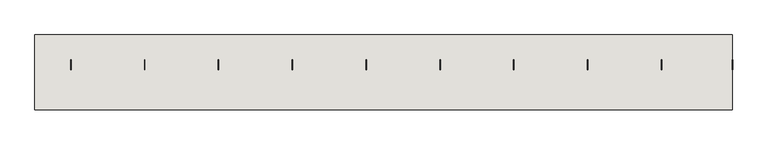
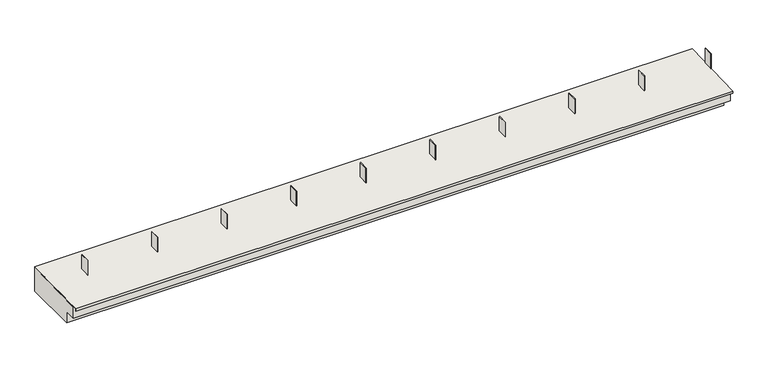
"""IFC4 building model written with IfcOpenShell, lengths in millimetres: wall geometry, Corniche : Corniche."""

from ifc_helpers import new_model, si_unit, frame, origin, place, context, project, spatial, polyline, outline, extrude, source, transform, mapped, element, save


def wall_66ea4f2a(model_context):
    return source(origin(), model_context, "Body", "SweptSolid", [
        extrude(outline(polyline([(9081.7466393, -256.8290062), (9081.7466393, -381.8290062), (9076.7466393, -381.8290062), (9076.7466393, -256.8290062), (9081.7466393, -256.8290062)])), frame((0.0, 0.0, 6832.3587747), z_axis=(0.0, 0.0, 1.0), x_axis=(1.0, 0.0, 0.0)), (0.0, 0.0, 1.0), 200.0412253),
        extrude(outline(polyline([(8229.4466393, -256.8290062), (8229.4466393, -381.8290062), (8224.4466393, -381.8290062), (8224.4466393, -256.8290062), (8229.4466393, -256.8290062)])), frame((0.0, 0.0, 6832.3587747), z_axis=(0.0, 0.0, 1.0), x_axis=(1.0, 0.0, 0.0)), (0.0, 0.0, 1.0), 200.0412253),
        extrude(outline(polyline([(7341.1466393, -256.8290062), (7341.1466393, -381.8290062), (7336.1466393, -381.8290062), (7336.1466393, -256.8290062), (7341.1466393, -256.8290062)])), frame((0.0, 0.0, 6832.3587747), z_axis=(0.0, 0.0, 1.0), x_axis=(1.0, 0.0, 0.0)), (0.0, 0.0, 1.0), 200.0412253),
        extrude(outline(polyline([(6452.8466393, -256.8290062), (6452.8466393, -381.8290062), (6447.8466393, -381.8290062), (6447.8466393, -256.8290062), (6452.8466393, -256.8290062)])), frame((0.0, 0.0, 6832.3587747), z_axis=(0.0, 0.0, 1.0), x_axis=(1.0, 0.0, 0.0)), (0.0, 0.0, 1.0), 200.0412253),
        extrude(outline(polyline([(5564.5466393, -256.8290062), (5564.5466393, -381.8290062), (5559.5466393, -381.8290062), (5559.5466393, -256.8290062), (5564.5466393, -256.8290062)])), frame((0.0, 0.0, 6832.3587747), z_axis=(0.0, 0.0, 1.0), x_axis=(1.0, 0.0, 0.0)), (0.0, 0.0, 1.0), 200.0412253),
        extrude(outline(polyline([(4676.2466393, -256.8290062), (4676.2466393, -381.8290062), (4671.2466393, -381.8290062), (4671.2466393, -256.8290062), (4676.2466393, -256.8290062)])), frame((0.0, 0.0, 6832.3587747), z_axis=(0.0, 0.0, 1.0), x_axis=(1.0, 0.0, 0.0)), (0.0, 0.0, 1.0), 200.0412253),
        extrude(outline(polyline([(3787.9466393, -256.8290062), (3787.9466393, -381.8290062), (3782.9466393, -381.8290062), (3782.9466393, -256.8290062), (3787.9466393, -256.8290062)])), frame((0.0, 0.0, 6832.3587747), z_axis=(0.0, 0.0, 1.0), x_axis=(1.0, 0.0, 0.0)), (0.0, 0.0, 1.0), 200.0412253),
        extrude(outline(polyline([(2899.6466393, -256.8290062), (2899.6466393, -381.8290062), (2894.6466393, -381.8290062), (2894.6466393, -256.8290062), (2899.6466393, -256.8290062)])), frame((0.0, 0.0, 6832.3587747), z_axis=(0.0, 0.0, 1.0), x_axis=(1.0, 0.0, 0.0)), (0.0, 0.0, 1.0), 200.0412253),
        extrude(outline(polyline([(2011.3466393, -256.8290062), (2011.3466393, -381.8290062), (2006.3466393, -381.8290062), (2006.3466393, -256.8290062), (2011.3466393, -256.8290062)])), frame((0.0, 0.0, 6832.3587747), z_axis=(0.0, 0.0, 1.0), x_axis=(1.0, 0.0, 0.0)), (0.0, 0.0, 1.0), 200.0412253),
        extrude(outline(polyline([(1123.0466393, -256.8290062), (1123.0466393, -381.8290062), (1118.0466393, -381.8290062), (1118.0466393, -256.8290062), (1123.0466393, -256.8290062)])), frame((0.0, 0.0, 6832.3587747), z_axis=(0.0, 0.0, 1.0), x_axis=(1.0, 0.0, 0.0)), (0.0, 0.0, 1.0), 200.0412253),
        extrude(outline(polyline([(-860.875809, 6818.684778), (-860.875809, 6790.6328609), (-862.875809, 6790.6328609), (-862.875809, 6820.6328609), (39.124191, 6844.3594665), (39.124191, 6842.3587747), (-860.875809, 6818.684778)])), frame((688.2466393, 0.0, 0.0), z_axis=(1.0, 0.0, 0.0), x_axis=(0.0, 1.0, 0.0)), (0.0, 0.0, 1.0), 8390.0),
        extrude(outline(polyline([(-810.875809, 6660.0), (-810.875809, 6810.0), (39.124191, 6832.3587747), (39.124191, 6510.0), (-660.875809, 6510.0), (-660.875809, 6660.0), (-810.875809, 6660.0)])), frame((688.2466393, 0.0, 0.0), z_axis=(1.0, 0.0, 0.0), x_axis=(0.0, 1.0, 0.0)), (0.0, 0.0, 1.0), 8390.0),
    ])


if __name__ == "__main__":
    model = new_model("IFC4")
    model_context = context("Model", 3, world=origin())
    ifc_project = project(units=[si_unit("LENGTHUNIT", "METRE", prefix="MILLI")], contexts=[model_context])
    site = spatial("IfcSite", under=ifc_project)
    building = spatial("IfcBuilding", under=site)
    placement = place(None, origin())
    wall_shape = wall_66ea4f2a(model_context)
    element("IfcWall", 1, ObjectType="Corniche : Corniche", at=placement, inside=building, context=model_context, shape_type="MappedRepresentation", body=[
        mapped(wall_shape, transform((0.0, 0.0, 0.0), x_axis=(1.0, 0.0, 0.0), y_axis=(0.0, 1.0, 0.0), z_axis=(0.0, 0.0, 1.0))),
    ])
    save(model, "model.ifc")
